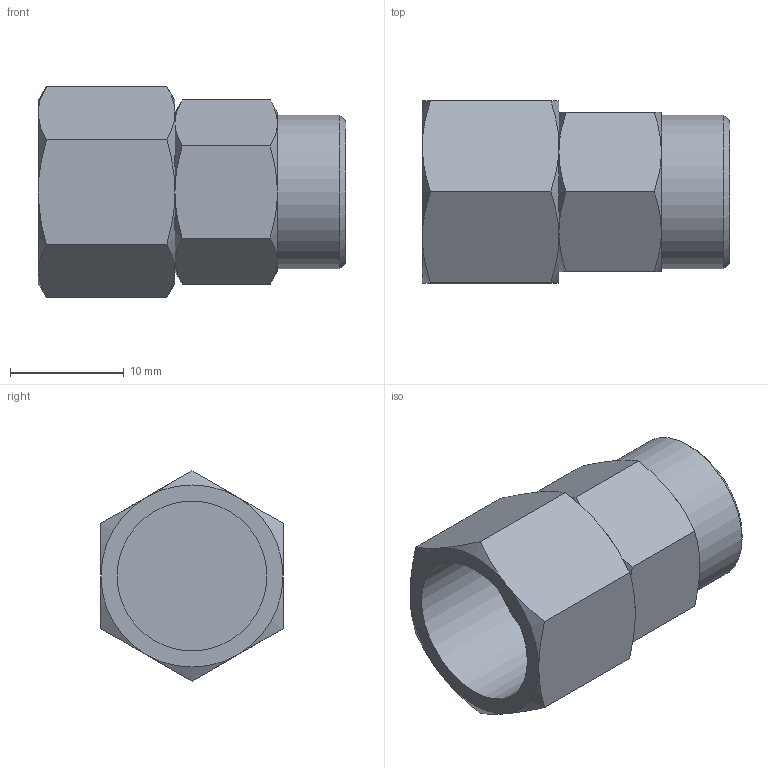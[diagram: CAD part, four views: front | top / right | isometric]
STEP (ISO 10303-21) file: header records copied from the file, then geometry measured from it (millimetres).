
FILE_DESCRIPTION(/* description */ (''),/* implementation_level */ '2;1');
FILE_NAME(/* name */ 'E:\2013年度版　3D-DATA\【21】 HOSE FITTING\[01] HOSE SOCKET\[05] H5-G2F.stp',/* time_stamp */ '2013-08-05T14:51:42+09:00',/* author */ ('takahashi-pc2'),/* organization */ (''),/* preprocessor_version */ 'ST-DEVELOPER v15.2',/* originating_system */ 'Autodesk Inventor 2014',/* authorisation */ '');
FILE_SCHEMA (('AUTOMOTIVE_DESIGN { 1 0 10303 214 3 1 1 }'));
Length unit declared in the file: millimetre
Products named in the file (1): [05] H5-G2F
Bounding box: 27 x 16 x 18.48 mm (x, y, z)
Volume: 3376 mm3; surface area: 2367.3 mm2
Topology: 1 solids, 1 shells, 46 faces, 95 edges, 55 vertices
Faces by surface type: cone 25, plane 18, cylinder 3
Full cylindrical faces by diameter (mm): 8 x1, 13.157 x1, 13.5 x1
Entity records: 1143 total; most frequent: CARTESIAN_POINT 289, ORIENTED_EDGE 182, DIRECTION 168, EDGE_CURVE 91, AXIS2_PLACEMENT_3D 78, VERTEX_POINT 55, EDGE_LOOP 54, ADVANCED_FACE 46
